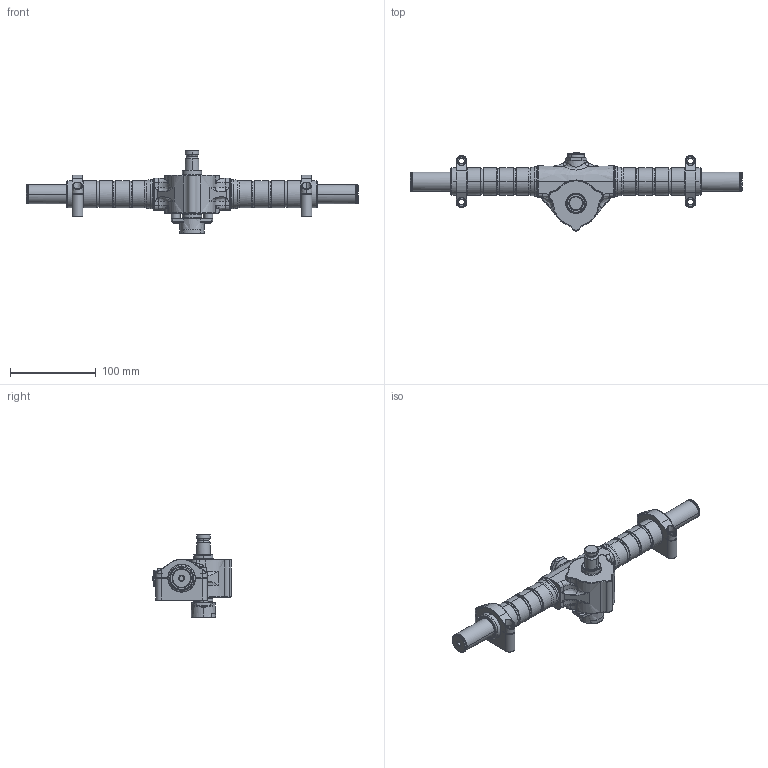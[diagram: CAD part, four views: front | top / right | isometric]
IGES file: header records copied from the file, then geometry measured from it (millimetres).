
Start section: SolidWorks IGES file using NURBS representation for surfaces
Global section: file name: C:\Work\ETG\KAZ\ETG Steering Rack\ETG Steering Rack V2\KAZ Steering Rack - Dumb Solid.IGS; native system: SolidWorks 2012; preprocessor: SolidWorks 2012; author: Jason - Asus; date: 130114.024223; units: inch
Bounding box: 386.71 x 91.35 x 96.38 mm (x, y, z)
Surface area: 71938.7 mm2 (no closed solid volume)
Topology: 0 solids, 0 shells, 709 faces, 8046 edges, 8032 vertices
Faces by surface type: bspline 709
